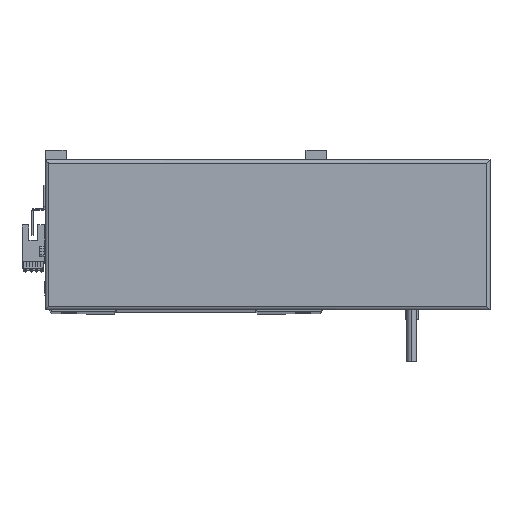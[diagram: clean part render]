
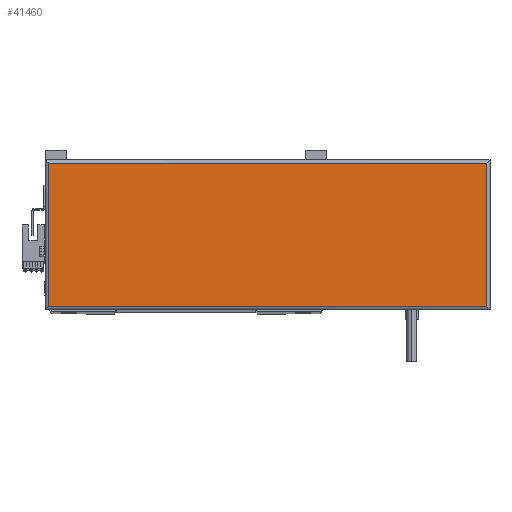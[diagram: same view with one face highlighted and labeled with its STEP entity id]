
A CAD part, top view. The second image highlights one B-rep face of the part: STEP entity #41460.
In plain terms, the highlighted planar face has unit normal (0, 0, 1).
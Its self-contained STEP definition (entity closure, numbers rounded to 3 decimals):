
#1821 = CARTESIAN_POINT ( 'NONE',  ( 2., 88., 44.8 ) ) ;
#3842 = CARTESIAN_POINT ( 'NONE',  ( 265., 90., 44.8 ) ) ;
#4035 = FACE_OUTER_BOUND ( 'NONE', #21290, .T. ) ;
#4569 = LINE ( 'NONE', #7389, #35434 ) ;
#5580 = VECTOR ( 'NONE', #22420, 1000. ) ;
#6244 = EDGE_CURVE ( 'NONE', #33716, #6948, #40804, .T. ) ;
#6898 = AXIS2_PLACEMENT_3D ( 'NONE', #20263, #43029, #38957 ) ;
#6948 = VERTEX_POINT ( 'NONE', #7909 ) ;
#7389 = CARTESIAN_POINT ( 'NONE',  ( 267., 2., 44.8 ) ) ;
#7563 = DIRECTION ( 'NONE',  ( 0., 1., 0. ) ) ;
#7909 = CARTESIAN_POINT ( 'NONE',  ( 265., 88., 44.8 ) ) ;
#10417 = ORIENTED_EDGE ( 'NONE', *, *, #6244, .T. ) ;
#10868 = CARTESIAN_POINT ( 'NONE',  ( 2., 0., 44.8 ) ) ;
#11881 = VERTEX_POINT ( 'NONE', #1821 ) ;
#13697 = VERTEX_POINT ( 'NONE', #16985 ) ;
#15454 = LINE ( 'NONE', #10868, #5580 ) ;
#15461 = CARTESIAN_POINT ( 'NONE',  ( 0., 88., 44.8 ) ) ;
#16985 = CARTESIAN_POINT ( 'NONE',  ( 2., 2., 44.8 ) ) ;
#20263 = CARTESIAN_POINT ( 'NONE',  ( 133.5, 45., 44.8 ) ) ;
#21063 = EDGE_CURVE ( 'NONE', #6948, #11881, #23461, .T. ) ;
#21290 = EDGE_LOOP ( 'NONE', ( #10417, #23311, #36385, #47014 ) ) ;
#22420 = DIRECTION ( 'NONE',  ( 0., -1., 0. ) ) ;
#23311 = ORIENTED_EDGE ( 'NONE', *, *, #21063, .T. ) ;
#23461 = LINE ( 'NONE', #15461, #33341 ) ;
#28232 = PLANE ( 'NONE',  #6898 ) ;
#32087 = EDGE_CURVE ( 'NONE', #11881, #13697, #15454, .T. ) ;
#33341 = VECTOR ( 'NONE', #41544, 1000. ) ;
#33716 = VERTEX_POINT ( 'NONE', #43830 ) ;
#35434 = VECTOR ( 'NONE', #37163, 1000. ) ;
#36385 = ORIENTED_EDGE ( 'NONE', *, *, #32087, .T. ) ;
#37163 = DIRECTION ( 'NONE',  ( 1., 0., 0. ) ) ;
#38095 = EDGE_CURVE ( 'NONE', #13697, #33716, #4569, .T. ) ;
#38957 = DIRECTION ( 'NONE',  ( 1., 0., 0. ) ) ;
#40804 = LINE ( 'NONE', #3842, #41969 ) ;
#41460 = ADVANCED_FACE ( 'NONE', ( #4035 ), #28232, .T. ) ;
#41544 = DIRECTION ( 'NONE',  ( -1., 0., 0. ) ) ;
#41969 = VECTOR ( 'NONE', #7563, 1000. ) ;
#43029 = DIRECTION ( 'NONE',  ( 0., 0., 1. ) ) ;
#43830 = CARTESIAN_POINT ( 'NONE',  ( 265., 2., 44.8 ) ) ;
#47014 = ORIENTED_EDGE ( 'NONE', *, *, #38095, .T. ) ;
